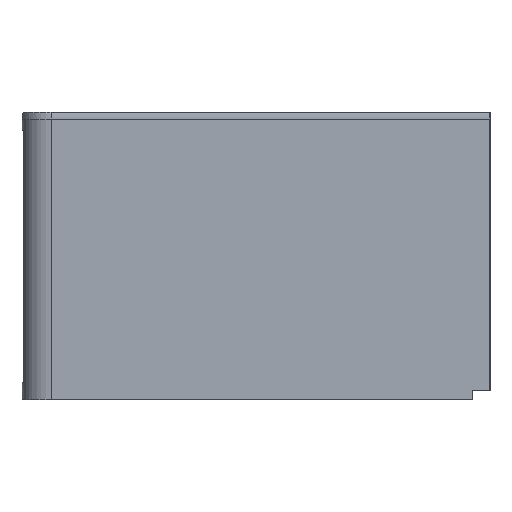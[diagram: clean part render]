
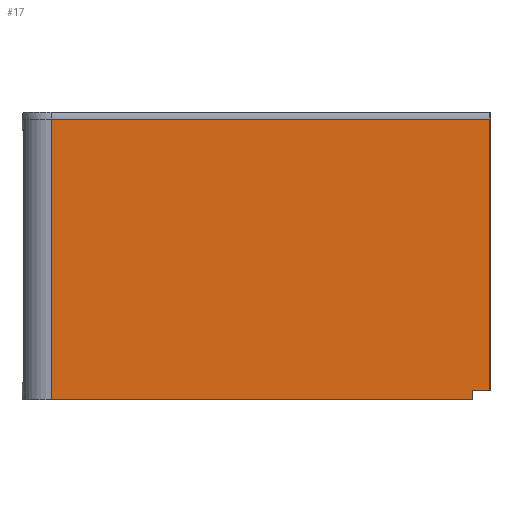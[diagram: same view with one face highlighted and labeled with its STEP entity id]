
A CAD part, left-side view. The second image highlights one B-rep face of the part: STEP entity #17.
In plain terms, the highlighted planar face has unit normal (-1, 0, 0).
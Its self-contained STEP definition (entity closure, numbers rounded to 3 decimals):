
#17 = ADVANCED_FACE('',(#18),#32,.F.);
#18 = FACE_BOUND('',#19,.F.);
#19 = EDGE_LOOP('',(#20,#53,#79,#105,#133,#161));
#20 = ORIENTED_EDGE('',*,*,#21,.F.);
#21 = EDGE_CURVE('',#22,#24,#26,.T.);
#22 = VERTEX_POINT('',#23);
#23 = CARTESIAN_POINT('',(0.,200.,1.6));
#24 = VERTEX_POINT('',#25);
#25 = CARTESIAN_POINT('',(0.,200.,48.));
#26 = SURFACE_CURVE('',#27,(#31,#42),.PCURVE_S1.);
#27 = LINE('',#28,#29);
#28 = CARTESIAN_POINT('',(0.,200.,0.));
#29 = VECTOR('',#30,1.);
#30 = DIRECTION('',(0.,0.,1.));
#31 = PCURVE('',#32,#37);
#32 = PLANE('',#33);
#33 = AXIS2_PLACEMENT_3D('',#34,#35,#36);
#34 = CARTESIAN_POINT('',(0.,0.,0.));
#35 = DIRECTION('',(1.,0.,0.));
#36 = DIRECTION('',(0.,0.,1.));
#37 = DEFINITIONAL_REPRESENTATION('',(#38),#41);
#38 = B_SPLINE_CURVE_WITH_KNOTS('',1,(#39,#40),.UNSPECIFIED.,.F.,.F.,(2,
    2),(0.,48.),.PIECEWISE_BEZIER_KNOTS.);
#39 = CARTESIAN_POINT('',(0.,-200.));
#40 = CARTESIAN_POINT('',(48.,-200.));
#41 = ( GEOMETRIC_REPRESENTATION_CONTEXT(2) 
PARAMETRIC_REPRESENTATION_CONTEXT() REPRESENTATION_CONTEXT('2D SPACE',''
  ) );
#42 = PCURVE('',#43,#48);
#43 = PLANE('',#44);
#44 = AXIS2_PLACEMENT_3D('',#45,#46,#47);
#45 = CARTESIAN_POINT('',(-1.,200.,0.));
#46 = DIRECTION('',(0.,1.,0.));
#47 = DIRECTION('',(0.,0.,1.));
#48 = DEFINITIONAL_REPRESENTATION('',(#49),#52);
#49 = B_SPLINE_CURVE_WITH_KNOTS('',1,(#50,#51),.UNSPECIFIED.,.F.,.F.,(2,
    2),(0.,48.),.PIECEWISE_BEZIER_KNOTS.);
#50 = CARTESIAN_POINT('',(0.,1.));
#51 = CARTESIAN_POINT('',(48.,1.));
#52 = ( GEOMETRIC_REPRESENTATION_CONTEXT(2) 
PARAMETRIC_REPRESENTATION_CONTEXT() REPRESENTATION_CONTEXT('2D SPACE',''
  ) );
#53 = ORIENTED_EDGE('',*,*,#54,.F.);
#54 = EDGE_CURVE('',#55,#22,#57,.T.);
#55 = VERTEX_POINT('',#56);
#56 = CARTESIAN_POINT('',(0.,203.,1.6));
#57 = SURFACE_CURVE('',#58,(#62,#68),.PCURVE_S1.);
#58 = LINE('',#59,#60);
#59 = CARTESIAN_POINT('',(0.,99.5,1.6));
#60 = VECTOR('',#61,1.);
#61 = DIRECTION('',(0.,-1.,0.));
#62 = PCURVE('',#32,#63);
#63 = DEFINITIONAL_REPRESENTATION('',(#64),#67);
#64 = B_SPLINE_CURVE_WITH_KNOTS('',1,(#65,#66),.UNSPECIFIED.,.F.,.F.,(2,
    2),(-103.5,-100.5),.PIECEWISE_BEZIER_KNOTS.);
#65 = CARTESIAN_POINT('',(1.6,-203.));
#66 = CARTESIAN_POINT('',(1.6,-200.));
#67 = ( GEOMETRIC_REPRESENTATION_CONTEXT(2) 
PARAMETRIC_REPRESENTATION_CONTEXT() REPRESENTATION_CONTEXT('2D SPACE',''
  ) );
#68 = PCURVE('',#69,#74);
#69 = PLANE('',#70);
#70 = AXIS2_PLACEMENT_3D('',#71,#72,#73);
#71 = CARTESIAN_POINT('',(-1.,199.,1.6));
#72 = DIRECTION('',(0.,0.,1.));
#73 = DIRECTION('',(1.,0.,0.));
#74 = DEFINITIONAL_REPRESENTATION('',(#75),#78);
#75 = B_SPLINE_CURVE_WITH_KNOTS('',1,(#76,#77),.UNSPECIFIED.,.F.,.F.,(2,
    2),(-103.5,-100.5),.PIECEWISE_BEZIER_KNOTS.);
#76 = CARTESIAN_POINT('',(1.,4.));
#77 = CARTESIAN_POINT('',(1.,1.));
#78 = ( GEOMETRIC_REPRESENTATION_CONTEXT(2) 
PARAMETRIC_REPRESENTATION_CONTEXT() REPRESENTATION_CONTEXT('2D SPACE',''
  ) );
#79 = ORIENTED_EDGE('',*,*,#80,.F.);
#80 = EDGE_CURVE('',#81,#55,#83,.T.);
#81 = VERTEX_POINT('',#82);
#82 = CARTESIAN_POINT('',(0.,203.,0.));
#83 = SURFACE_CURVE('',#84,(#88,#94),.PCURVE_S1.);
#84 = LINE('',#85,#86);
#85 = CARTESIAN_POINT('',(0.,203.,-0.5));
#86 = VECTOR('',#87,1.);
#87 = DIRECTION('',(0.,0.,1.));
#88 = PCURVE('',#32,#89);
#89 = DEFINITIONAL_REPRESENTATION('',(#90),#93);
#90 = B_SPLINE_CURVE_WITH_KNOTS('',1,(#91,#92),.UNSPECIFIED.,.F.,.F.,(2,
    2),(0.5,2.1),.PIECEWISE_BEZIER_KNOTS.);
#91 = CARTESIAN_POINT('',(0.,-203.));
#92 = CARTESIAN_POINT('',(1.6,-203.));
#93 = ( GEOMETRIC_REPRESENTATION_CONTEXT(2) 
PARAMETRIC_REPRESENTATION_CONTEXT() REPRESENTATION_CONTEXT('2D SPACE',''
  ) );
#94 = PCURVE('',#95,#100);
#95 = PLANE('',#96);
#96 = AXIS2_PLACEMENT_3D('',#97,#98,#99);
#97 = CARTESIAN_POINT('',(-1.,203.,-1.));
#98 = DIRECTION('',(0.,1.,0.));
#99 = DIRECTION('',(0.,0.,1.));
#100 = DEFINITIONAL_REPRESENTATION('',(#101),#104);
#101 = B_SPLINE_CURVE_WITH_KNOTS('',1,(#102,#103),.UNSPECIFIED.,.F.,.F.,
  (2,2),(0.5,2.1),.PIECEWISE_BEZIER_KNOTS.);
#102 = CARTESIAN_POINT('',(1.,1.));
#103 = CARTESIAN_POINT('',(2.6,1.));
#104 = ( GEOMETRIC_REPRESENTATION_CONTEXT(2) 
PARAMETRIC_REPRESENTATION_CONTEXT() REPRESENTATION_CONTEXT('2D SPACE',''
  ) );
#105 = ORIENTED_EDGE('',*,*,#106,.T.);
#106 = EDGE_CURVE('',#81,#107,#109,.T.);
#107 = VERTEX_POINT('',#108);
#108 = CARTESIAN_POINT('',(0.,275.,0.));
#109 = SURFACE_CURVE('',#110,(#114,#121),.PCURVE_S1.);
#110 = LINE('',#111,#112);
#111 = CARTESIAN_POINT('',(0.,0.,0.));
#112 = VECTOR('',#113,1.);
#113 = DIRECTION('',(0.,1.,0.));
#114 = PCURVE('',#32,#115);
#115 = DEFINITIONAL_REPRESENTATION('',(#116),#120);
#116 = LINE('',#117,#118);
#117 = CARTESIAN_POINT('',(0.,0.));
#118 = VECTOR('',#119,1.);
#119 = DIRECTION('',(0.,-1.));
#120 = ( GEOMETRIC_REPRESENTATION_CONTEXT(2) 
PARAMETRIC_REPRESENTATION_CONTEXT() REPRESENTATION_CONTEXT('2D SPACE',''
  ) );
#121 = PCURVE('',#122,#127);
#122 = PLANE('',#123);
#123 = AXIS2_PLACEMENT_3D('',#124,#125,#126);
#124 = CARTESIAN_POINT('',(0.,0.,0.));
#125 = DIRECTION('',(0.,0.,1.));
#126 = DIRECTION('',(1.,0.,0.));
#127 = DEFINITIONAL_REPRESENTATION('',(#128),#132);
#128 = LINE('',#129,#130);
#129 = CARTESIAN_POINT('',(0.,0.));
#130 = VECTOR('',#131,1.);
#131 = DIRECTION('',(0.,1.));
#132 = ( GEOMETRIC_REPRESENTATION_CONTEXT(2) 
PARAMETRIC_REPRESENTATION_CONTEXT() REPRESENTATION_CONTEXT('2D SPACE',''
  ) );
#133 = ORIENTED_EDGE('',*,*,#134,.T.);
#134 = EDGE_CURVE('',#107,#135,#137,.T.);
#135 = VERTEX_POINT('',#136);
#136 = CARTESIAN_POINT('',(0.,275.,48.));
#137 = SURFACE_CURVE('',#138,(#142,#149),.PCURVE_S1.);
#138 = LINE('',#139,#140);
#139 = CARTESIAN_POINT('',(0.,275.,0.));
#140 = VECTOR('',#141,1.);
#141 = DIRECTION('',(0.,0.,1.));
#142 = PCURVE('',#32,#143);
#143 = DEFINITIONAL_REPRESENTATION('',(#144),#148);
#144 = LINE('',#145,#146);
#145 = CARTESIAN_POINT('',(0.,-275.));
#146 = VECTOR('',#147,1.);
#147 = DIRECTION('',(1.,0.));
#148 = ( GEOMETRIC_REPRESENTATION_CONTEXT(2) 
PARAMETRIC_REPRESENTATION_CONTEXT() REPRESENTATION_CONTEXT('2D SPACE',''
  ) );
#149 = PCURVE('',#150,#155);
#150 = CYLINDRICAL_SURFACE('',#151,5.);
#151 = AXIS2_PLACEMENT_3D('',#152,#153,#154);
#152 = CARTESIAN_POINT('',(5.,275.,0.));
#153 = DIRECTION('',(0.,0.,1.));
#154 = DIRECTION('',(-1.,-0.,0.));
#155 = DEFINITIONAL_REPRESENTATION('',(#156),#160);
#156 = LINE('',#157,#158);
#157 = CARTESIAN_POINT('',(-0.,0.));
#158 = VECTOR('',#159,1.);
#159 = DIRECTION('',(-0.,1.));
#160 = ( GEOMETRIC_REPRESENTATION_CONTEXT(2) 
PARAMETRIC_REPRESENTATION_CONTEXT() REPRESENTATION_CONTEXT('2D SPACE',''
  ) );
#161 = ORIENTED_EDGE('',*,*,#162,.F.);
#162 = EDGE_CURVE('',#24,#135,#163,.T.);
#163 = SURFACE_CURVE('',#164,(#168,#175),.PCURVE_S1.);
#164 = LINE('',#165,#166);
#165 = CARTESIAN_POINT('',(0.,5.,48.));
#166 = VECTOR('',#167,1.);
#167 = DIRECTION('',(0.,1.,0.));
#168 = PCURVE('',#32,#169);
#169 = DEFINITIONAL_REPRESENTATION('',(#170),#174);
#170 = LINE('',#171,#172);
#171 = CARTESIAN_POINT('',(48.,-5.));
#172 = VECTOR('',#173,1.);
#173 = DIRECTION('',(0.,-1.));
#174 = ( GEOMETRIC_REPRESENTATION_CONTEXT(2) 
PARAMETRIC_REPRESENTATION_CONTEXT() REPRESENTATION_CONTEXT('2D SPACE',''
  ) );
#175 = PCURVE('',#176,#181);
#176 = CYLINDRICAL_SURFACE('',#177,4.);
#177 = AXIS2_PLACEMENT_3D('',#178,#179,#180);
#178 = CARTESIAN_POINT('',(4.,5.,48.));
#179 = DIRECTION('',(0.,1.,0.));
#180 = DIRECTION('',(-1.,0.,0.));
#181 = DEFINITIONAL_REPRESENTATION('',(#182),#186);
#182 = LINE('',#183,#184);
#183 = CARTESIAN_POINT('',(0.,0.));
#184 = VECTOR('',#185,1.);
#185 = DIRECTION('',(0.,1.));
#186 = ( GEOMETRIC_REPRESENTATION_CONTEXT(2) 
PARAMETRIC_REPRESENTATION_CONTEXT() REPRESENTATION_CONTEXT('2D SPACE',''
  ) );
